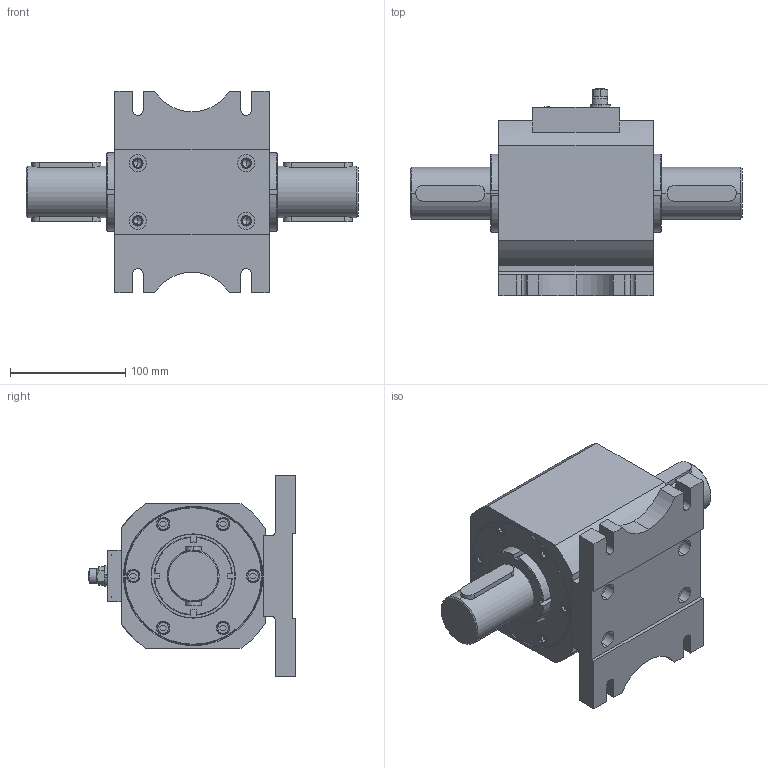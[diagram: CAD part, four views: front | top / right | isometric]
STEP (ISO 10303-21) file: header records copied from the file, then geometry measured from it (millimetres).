
FILE_DESCRIPTION (( 'STEP AP203' ), '1' );
FILE_NAME ('RTS03-1000NM.STEP', '2026-05-28T14:34:55', ( '' ), ( '' ), 'SwSTEP 2.0', 'SolidWorks 2019', '' );
FILE_SCHEMA (( 'CONFIG_CONTROL_DESIGN' ));
Length unit declared in the file: millimetre
Products named in the file (1): RTS03-1000NM
Bounding box: 288 x 180.1 x 175 mm (x, y, z)
Volume: 2682554.6 mm3; surface area: 203578.8 mm2
Topology: 3 solids, 3 shells, 594 faces, 1485 edges, 967 vertices
Faces by surface type: plane 264, cylinder 242, cone 71, bspline 12, torus 4, sphere 1
Entity records: 22848 total; most frequent: CARTESIAN_POINT 8712, ORIENTED_EDGE 2948, DIRECTION 2905, EDGE_CURVE 1474, AXIS2_PLACEMENT_3D 1034, VERTEX_POINT 965, LINE 837, VECTOR 837
